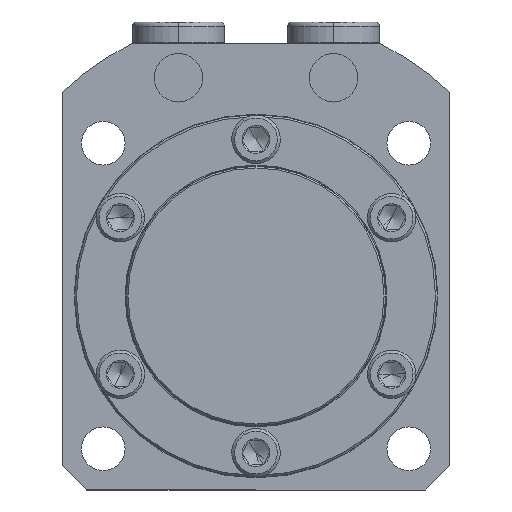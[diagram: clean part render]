
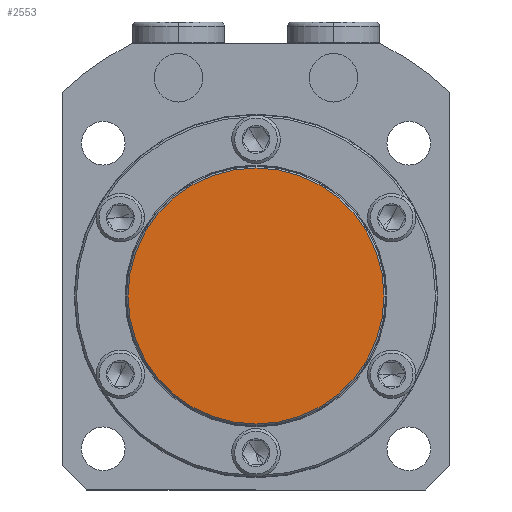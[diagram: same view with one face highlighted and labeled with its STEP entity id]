
A CAD part, front view. The second image highlights one B-rep face of the part: STEP entity #2553.
In plain terms, the highlighted planar face has unit normal (0, -1, 0).
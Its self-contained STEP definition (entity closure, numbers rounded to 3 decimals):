
#145 = EDGE_LOOP ( 'NONE', ( #4403, #4404 ) ) ;
#183 = VERTEX_POINT ( 'NONE', #2970 ) ;
#186 = VERTEX_POINT ( 'NONE', #2973 ) ;
#871 = CARTESIAN_POINT ( 'NONE',  ( 0., -12.2, 0. ) ) ;
#872 = DIRECTION ( 'NONE',  ( 0., -1., 0. ) ) ;
#873 = DIRECTION ( 'NONE',  ( 0., 0., -1. ) ) ;
#917 = CARTESIAN_POINT ( 'NONE',  ( 0., -12.2, 0. ) ) ;
#941 = FACE_OUTER_BOUND ( 'NONE', #145, .T. ) ;
#942 = PLANE ( 'NONE',  #4174 ) ;
#945 = DIRECTION ( 'NONE',  ( 0., -1., 0. ) ) ;
#946 = DIRECTION ( 'NONE',  ( 0., 0., -1. ) ) ;
#1979 = EDGE_CURVE ( 'NONE', #183, #186, #2793, .T. ) ;
#2537 = EDGE_CURVE ( 'NONE', #186, #183, #2943, .T. ) ;
#2553 = ADVANCED_FACE ( 'NONE', ( #941 ), #942, .T. ) ;
#2776 = AXIS2_PLACEMENT_3D ( 'NONE', #3259, #3260, #3261 ) ;
#2793 = CIRCLE ( 'NONE', #2776, 26.4 ) ;
#2942 = AXIS2_PLACEMENT_3D ( 'NONE', #871, #872, #873 ) ;
#2943 = CIRCLE ( 'NONE', #2942, 26.4 ) ;
#2970 = CARTESIAN_POINT ( 'NONE',  ( 0., -12.2, 26.4 ) ) ;
#2973 = CARTESIAN_POINT ( 'NONE',  ( 0., -12.2, -26.4 ) ) ;
#3259 = CARTESIAN_POINT ( 'NONE',  ( 0., -12.2, 0. ) ) ;
#3260 = DIRECTION ( 'NONE',  ( 0., -1., 0. ) ) ;
#3261 = DIRECTION ( 'NONE',  ( 0., 0., -1. ) ) ;
#4174 = AXIS2_PLACEMENT_3D ( 'NONE', #917, #945, #946 ) ;
#4403 = ORIENTED_EDGE ( 'NONE', *, *, #1979, .T. ) ;
#4404 = ORIENTED_EDGE ( 'NONE', *, *, #2537, .T. ) ;
